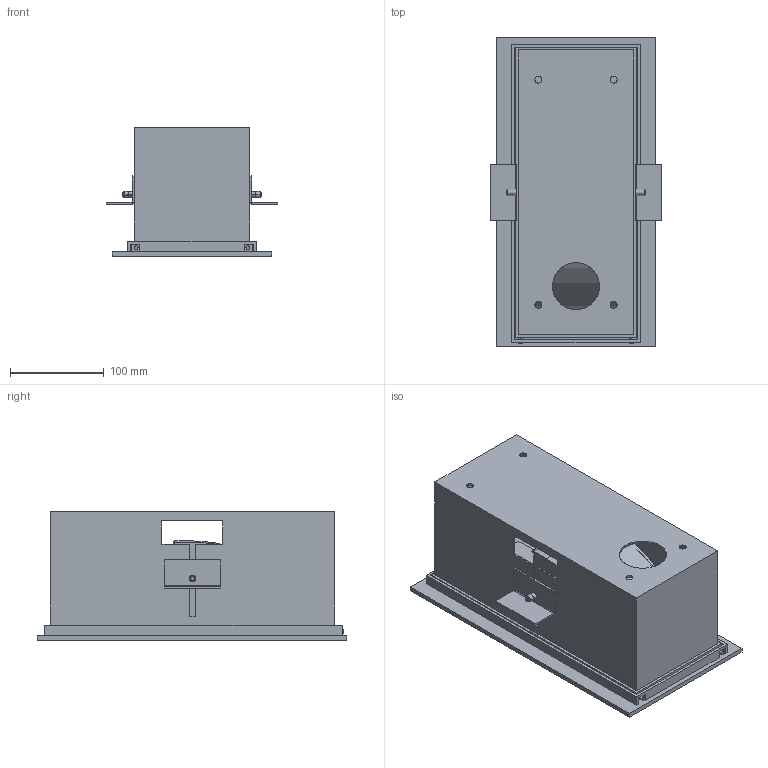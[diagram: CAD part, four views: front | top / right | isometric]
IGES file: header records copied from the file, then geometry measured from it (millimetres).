
Start section: SolidWorks IGES file using analytic representation for surfaces
Global section: file name: C:\SANTACOLE_PDM\Proyectos Catálogo\PROD-P15-003 -- APLIQUE SKYLINE\6_Técnico comercial\3D WEB\Aplique Skyline.IGS; native system: SolidWorks 2013; preprocessor: SolidWorks 2013; author: jordi.munoz; date: 150610.114905; units: millimetre
Bounding box: 183 x 330 x 137.4 mm (x, y, z)
Surface area: 558461.8 mm2 (no closed solid volume)
Topology: 0 solids, 0 shells, 376 faces, 3374 edges, 3374 vertices
Faces by surface type: bspline 228, revolution 148
